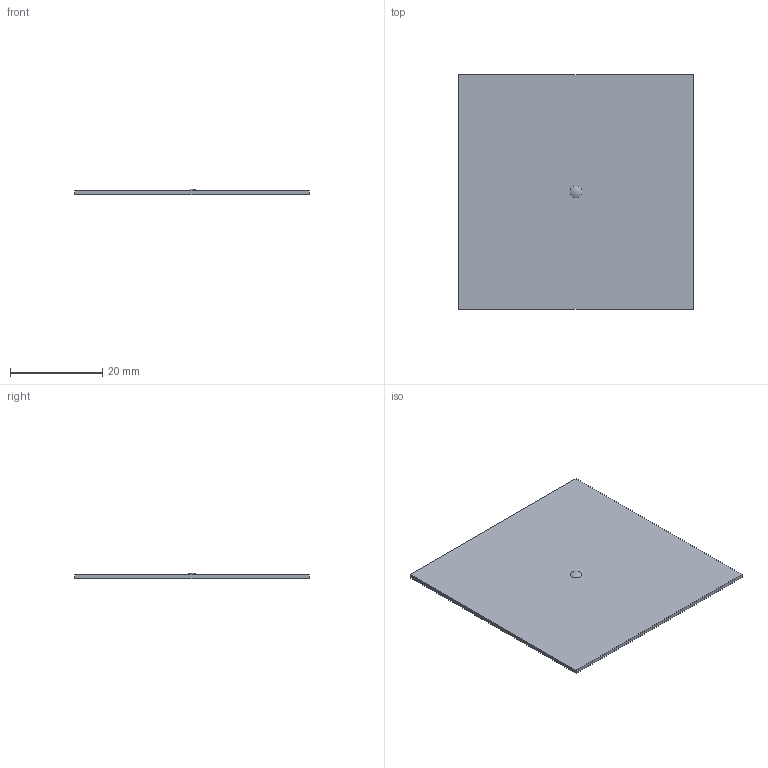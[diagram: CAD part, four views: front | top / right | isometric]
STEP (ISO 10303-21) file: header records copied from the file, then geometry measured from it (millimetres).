
FILE_DESCRIPTION(('PART XYZ REV A'),'1');
FILE_NAME('EF12','2012-03-29T22:35:31',('ERIC'),('TRIAX'),'Spatial Interop R21 SP3','Kubotek KeyCreator 2011 V10.5.0 (24766)','CHAZ');
FILE_SCHEMA(('CONFIG_CONTROL_DESIGN'));
Length unit declared in the file: inch
Products named in the file (1): 1
Bounding box: 50.8 x 50.8 x 1.18 mm (x, y, z)
Volume: 2097.9 mm3; surface area: 5327.4 mm2
Topology: 1 solids, 1 shells, 8 faces, 14 edges, 10 vertices
Faces by surface type: plane 6, sphere 2
Entity records: 240 total; most frequent: DIRECTION 34, CARTESIAN_POINT 33, ORIENTED_EDGE 28, EDGE_CURVE 14, LINE 12, VECTOR 12, AXIS2_PLACEMENT_3D 11, EDGE_LOOP 10
